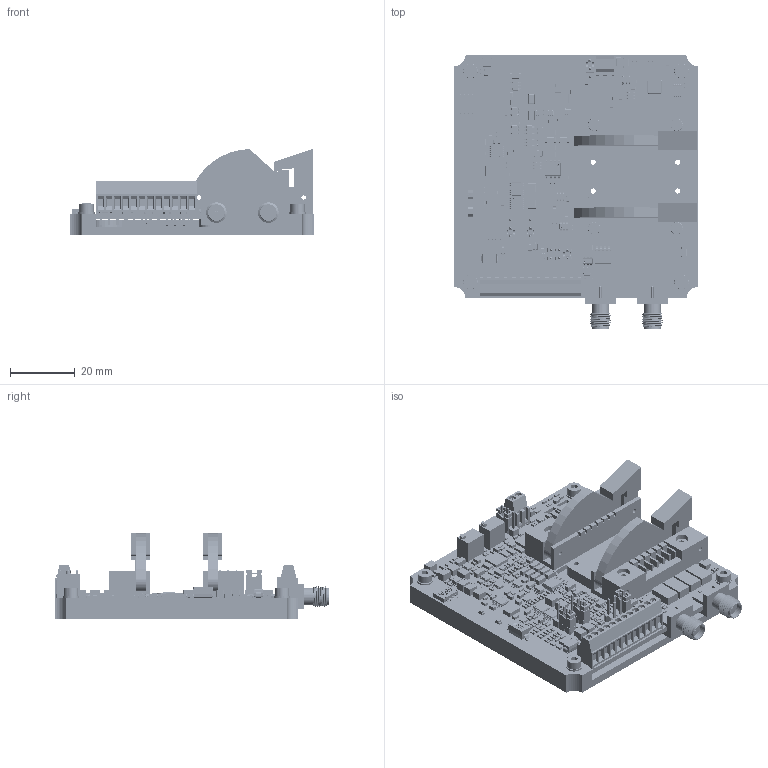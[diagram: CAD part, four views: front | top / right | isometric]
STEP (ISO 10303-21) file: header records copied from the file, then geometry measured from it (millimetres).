
FILE_DESCRIPTION (( 'STEP AP214' ), '1' );
FILE_NAME ('CTL101-2_V1.STEP', '2019-06-28T14:30:02', ( '' ), ( '' ), 'SwSTEP 2.0', 'SolidWorks 2015', '' );
FILE_SCHEMA (( 'AUTOMOTIVE_DESIGN' ));
Length unit declared in the file: millimetre
Products named in the file (403): CTL101-2_327; CTL101-2_26; CTL101-2_43; CTL101-2_29; CTL101-2_37; CTL101-2_334; CTL101-2_184; CTL101-2_126; CTL101-2_118; CTL101-2_245; CTL101-2_53; CTL101-2_28; CTL101-2_69; CTL101-2_49; CTL101-2_285; CTL101-2_30; CTL101-2_62; CTL101-2_159; CTL101-2_268; CTL101-2_333; CTL101-2_14; CTL101-2_87; CTL101-2_176; CTL101-2_8; CTL101-2_199; CTL101-2_163; CTL101-2_330; CTL101-2_215; CTL101-2_124; CTL101-2_20; CTL101-2_204; CTL101-2_41; baseplate_ctl_rev3; CTL101-2_70; CTL101-2_280; CTL101-2_100; CTL101-2_23; CTL101-2_35; CTL101-2_251; CTL101-2_61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
Assembly tree (691 placements, depth 6):
  CTL101-2_V1
    CTL101-2_V1.0
      CTL101-2
      CTL101-2
        CTL101-2_2
      CTL101-2_2
        CTL101-2_3
      CTL101-2_3
        CTL101-2_2
      CTL101-2_4
        CTL101-2_2
      CTL101-2_5
        CTL101-2_2
      CTL101-2_6
        CTL101-2_2
      CTL101-2_7
        CTL101-2_2
      CTL101-2_8
        CTL101-2_2
      CTL101-2_9
        CTL101-2_2
      CTL101-2_10
        CTL101-2_2
      CTL101-2_11
        CTL101-2_4
      CTL101-2_12
        CTL101-2_2
      CTL101-2_13
        CTL101-2_2
      CTL101-2_14
        CTL101-2_15
          CTL101-2_5
      CTL101-2_16
        CTL101-2_2
      CTL101-2_17
        CTL101-2_2
      CTL101-2_18
        CTL101-2_2
      CTL101-2_19
        CTL101-2_2
      CTL101-2_20
        CTL101-2_2
      CTL101-2_21
        CTL101-2_3
      CTL101-2_22
        CTL101-2_4
      CTL101-2_23
        CTL101-2_2
      CTL101-2_24
        CTL101-2_6
      CTL101-2_25
        CTL101-2_2
      CTL101-2_26
        CTL101-2_2
      CTL101-2_27
        CTL101-2_2
      CTL101-2_28
        CTL101-2_2
      CTL101-2_29
        CTL101-2_2
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Bounding box: 75 x 84.5 x 26.6 mm (x, y, z)
Volume: 40664.3 mm3; surface area: 45173.1 mm2
Topology: 832 solids, 893 shells, 26980 faces, 68333 edges, 43311 vertices
Faces by surface type: plane 15059, bspline 7404, cylinder 4368, cone 70, torus 59, sphere 20
Entity records: 271109 total; most frequent: CARTESIAN_POINT 55711, ORIENTED_EDGE 30534, DIRECTION 28880, EDGE_CURVE 15345, LINE 12200, VECTOR 12200, VERTEX_POINT 10001, AXIS2_PLACEMENT_3D 8340
